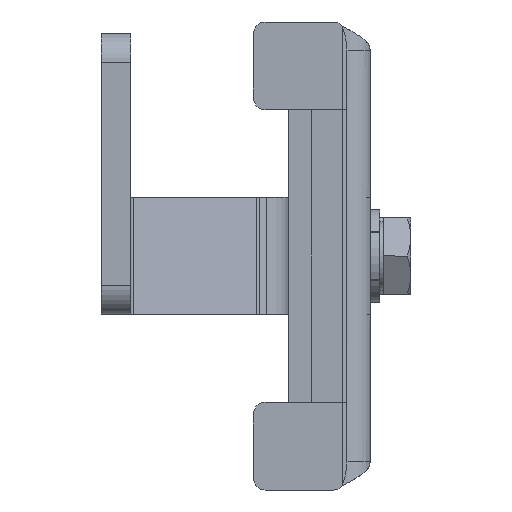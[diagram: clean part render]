
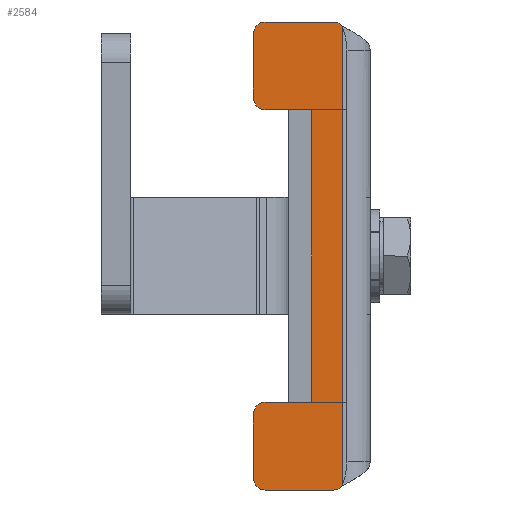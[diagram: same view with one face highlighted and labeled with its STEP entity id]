
A CAD part, left-side view. The second image highlights one B-rep face of the part: STEP entity #2584.
In plain terms, the highlighted planar face has unit normal (-1, 0, 0) as drawn and (0, 0, -1) by its records, which use the part's own axes.
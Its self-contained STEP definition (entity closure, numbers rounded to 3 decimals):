
#249=PLANE('',#2943);
#340=FACE_OUTER_BOUND('',#495,.T.);
#495=EDGE_LOOP('',(#1872,#1873,#1874,#1875,#1876,#1877,#1878,#1879,#1880,
#1881,#1882,#1883,#1884,#1885,#1886,#1887));
#659=LINE('',#4124,#871);
#668=LINE('',#4187,#880);
#675=LINE('',#4207,#887);
#678=LINE('',#4212,#890);
#679=LINE('',#4216,#891);
#680=LINE('',#4220,#892);
#681=LINE('',#4224,#893);
#682=LINE('',#4226,#894);
#683=LINE('',#4228,#895);
#684=LINE('',#4232,#896);
#871=VECTOR('',#3292,10.);
#880=VECTOR('',#3303,10.);
#887=VECTOR('',#3320,2.61);
#890=VECTOR('',#3325,10.);
#891=VECTOR('',#3328,2.61);
#892=VECTOR('',#3331,10.);
#893=VECTOR('',#3334,10.);
#894=VECTOR('',#3335,10.);
#895=VECTOR('',#3336,10.);
#896=VECTOR('',#3339,10.);
#1077=CIRCLE('',#2940,2.);
#1079=CIRCLE('',#2944,2.);
#1080=CIRCLE('',#2945,2.);
#1081=CIRCLE('',#2946,2.);
#1082=CIRCLE('',#2947,2.);
#1083=CIRCLE('',#2948,2.);
#1205=VERTEX_POINT('',#4121);
#1206=VERTEX_POINT('',#4123);
#1208=VERTEX_POINT('',#4152);
#1215=VERTEX_POINT('',#4185);
#1221=VERTEX_POINT('',#4200);
#1223=VERTEX_POINT('',#4206);
#1225=VERTEX_POINT('',#4213);
#1226=VERTEX_POINT('',#4215);
#1227=VERTEX_POINT('',#4217);
#1228=VERTEX_POINT('',#4219);
#1229=VERTEX_POINT('',#4221);
#1230=VERTEX_POINT('',#4223);
#1231=VERTEX_POINT('',#4225);
#1232=VERTEX_POINT('',#4227);
#1233=VERTEX_POINT('',#4229);
#1234=VERTEX_POINT('',#4231);
#1451=EDGE_CURVE('',#1206,#1205,#659,.T.);
#1462=EDGE_CURVE('',#1208,#1215,#668,.T.);
#1468=EDGE_CURVE('',#1206,#1221,#1077,.T.);
#1471=EDGE_CURVE('',#1221,#1223,#675,.T.);
#1474=EDGE_CURVE('',#1205,#1208,#678,.T.);
#1475=EDGE_CURVE('',#1225,#1215,#1079,.T.);
#1476=EDGE_CURVE('',#1225,#1226,#679,.T.);
#1477=EDGE_CURVE('',#1227,#1226,#1080,.T.);
#1478=EDGE_CURVE('',#1227,#1228,#680,.T.);
#1479=EDGE_CURVE('',#1229,#1228,#1081,.T.);
#1480=EDGE_CURVE('',#1229,#1230,#681,.T.);
#1481=EDGE_CURVE('',#1230,#1231,#682,.T.);
#1482=EDGE_CURVE('',#1231,#1232,#683,.T.);
#1483=EDGE_CURVE('',#1233,#1232,#1082,.T.);
#1484=EDGE_CURVE('',#1233,#1234,#684,.T.);
#1485=EDGE_CURVE('',#1223,#1234,#1083,.T.);
#1872=ORIENTED_EDGE('',*,*,#1468,.F.);
#1873=ORIENTED_EDGE('',*,*,#1451,.T.);
#1874=ORIENTED_EDGE('',*,*,#1474,.T.);
#1875=ORIENTED_EDGE('',*,*,#1462,.T.);
#1876=ORIENTED_EDGE('',*,*,#1475,.F.);
#1877=ORIENTED_EDGE('',*,*,#1476,.T.);
#1878=ORIENTED_EDGE('',*,*,#1477,.F.);
#1879=ORIENTED_EDGE('',*,*,#1478,.T.);
#1880=ORIENTED_EDGE('',*,*,#1479,.F.);
#1881=ORIENTED_EDGE('',*,*,#1480,.T.);
#1882=ORIENTED_EDGE('',*,*,#1481,.T.);
#1883=ORIENTED_EDGE('',*,*,#1482,.T.);
#1884=ORIENTED_EDGE('',*,*,#1483,.F.);
#1885=ORIENTED_EDGE('',*,*,#1484,.T.);
#1886=ORIENTED_EDGE('',*,*,#1485,.F.);
#1887=ORIENTED_EDGE('',*,*,#1471,.F.);
#2584=ADVANCED_FACE('',(#340),#249,.F.);
#2940=AXIS2_PLACEMENT_3D('',#4201,#3313,#3314);
#2943=AXIS2_PLACEMENT_3D('',#4211,#3323,#3324);
#2944=AXIS2_PLACEMENT_3D('',#4214,#3326,#3327);
#2945=AXIS2_PLACEMENT_3D('',#4218,#3329,#3330);
#2946=AXIS2_PLACEMENT_3D('',#4222,#3332,#3333);
#2947=AXIS2_PLACEMENT_3D('',#4230,#3337,#3338);
#2948=AXIS2_PLACEMENT_3D('',#4233,#3340,#3341);
#3292=DIRECTION('',(-0.707,-0.707,0.));
#3303=DIRECTION('',(-0.707,0.707,0.));
#3313=DIRECTION('center_axis',(0.,0.,
1.));
#3314=DIRECTION('ref_axis',(0.924,-0.383,0.));
#3320=DIRECTION('',(0.,1.,0.));
#3323=DIRECTION('center_axis',(0.,0.,
1.));
#3324=DIRECTION('ref_axis',(0.,-1.,0.));
#3325=DIRECTION('',(-1.,0.,0.));
#3326=DIRECTION('center_axis',(0.,0.,
1.));
#3327=DIRECTION('ref_axis',(-0.924,-0.383,0.));
#3328=DIRECTION('',(0.,1.,0.));
#3329=DIRECTION('center_axis',(0.,0.,
1.));
#3330=DIRECTION('ref_axis',(-0.707,0.707,0.));
#3331=DIRECTION('',(1.,0.,0.));
#3332=DIRECTION('center_axis',(0.,0.,
1.));
#3333=DIRECTION('ref_axis',(0.707,0.707,0.));
#3334=DIRECTION('',(0.,-1.,0.));
#3335=DIRECTION('',(1.,0.,0.));
#3336=DIRECTION('',(0.,1.,0.));
#3337=DIRECTION('center_axis',(0.,0.,
1.));
#3338=DIRECTION('ref_axis',(-0.707,0.707,0.));
#3339=DIRECTION('',(1.,0.,0.));
#3340=DIRECTION('center_axis',(0.,0.,
1.));
#3341=DIRECTION('ref_axis',(0.707,0.707,0.));
#4121=CARTESIAN_POINT('',(39.3,4.8,0.));
#4123=CARTESIAN_POINT('',(39.414,4.914,0.));
#4124=CARTESIAN_POINT('',(18.169,-16.331,0.));
#4152=CARTESIAN_POINT('',(-39.3,4.8,0.));
#4185=CARTESIAN_POINT('',(-39.414,4.914,0.));
#4187=CARTESIAN_POINT('',(-21.25,-13.25,0.));
#4200=CARTESIAN_POINT('',(40.,6.328,0.));
#4201=CARTESIAN_POINT('Origin',(38.,6.328,0.));
#4206=CARTESIAN_POINT('',(40.,18.,0.));
#4207=CARTESIAN_POINT('',(40.,-3.4,0.));
#4211=CARTESIAN_POINT('Origin',(-31.161,-10.661,0.));
#4212=CARTESIAN_POINT('',(0.,4.8,0.));
#4213=CARTESIAN_POINT('',(-40.,6.328,0.));
#4214=CARTESIAN_POINT('Origin',(-38.,6.328,0.));
#4215=CARTESIAN_POINT('',(-40.,18.,0.));
#4216=CARTESIAN_POINT('',(-40.,-3.4,0.));
#4217=CARTESIAN_POINT('',(-38.,20.,0.));
#4218=CARTESIAN_POINT('Origin',(-38.,18.,0.));
#4219=CARTESIAN_POINT('',(-27.,20.,0.));
#4220=CARTESIAN_POINT('',(-40.,20.,0.));
#4221=CARTESIAN_POINT('',(-25.,18.,0.));
#4222=CARTESIAN_POINT('Origin',(-27.,18.,0.));
#4223=CARTESIAN_POINT('',(-25.,10.,0.));
#4224=CARTESIAN_POINT('',(-25.,15.175,0.));
#4225=CARTESIAN_POINT('',(25.,10.,0.));
#4226=CARTESIAN_POINT('',(-12.5,10.,0.));
#4227=CARTESIAN_POINT('',(25.,18.,0.));
#4228=CARTESIAN_POINT('',(25.,10.175,0.));
#4229=CARTESIAN_POINT('',(27.,20.,0.));
#4230=CARTESIAN_POINT('Origin',(27.,18.,0.));
#4231=CARTESIAN_POINT('',(38.,20.,0.));
#4232=CARTESIAN_POINT('',(-40.,20.,0.));
#4233=CARTESIAN_POINT('Origin',(38.,18.,0.));
